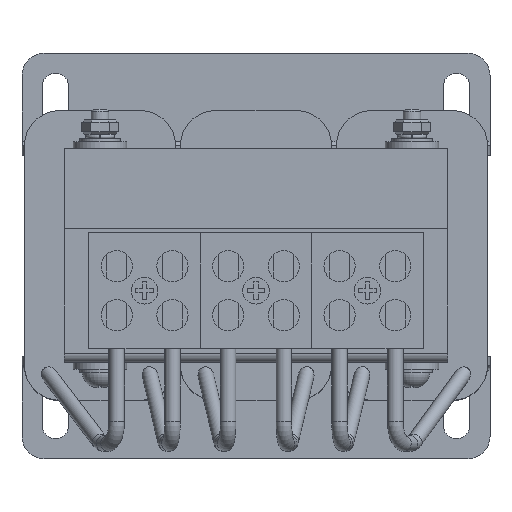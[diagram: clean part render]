
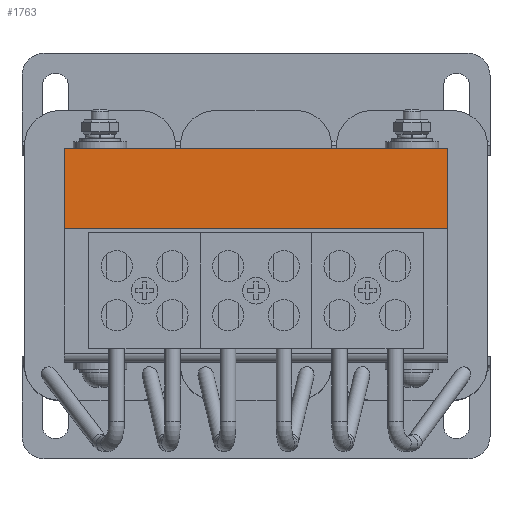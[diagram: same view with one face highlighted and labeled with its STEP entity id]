
A CAD part, top view. The second image highlights one B-rep face of the part: STEP entity #1763.
In plain terms, the highlighted planar face has unit normal (0, 0, 1).
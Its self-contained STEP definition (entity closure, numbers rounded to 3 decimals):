
#1763=ADVANCED_FACE('',(#2377),#2379,.T.);
#2377=FACE_BOUND('',#2378,.T.);
#2378=EDGE_LOOP('',(#3939,#3940,#3941,#3942));
#2379=PLANE('',#2380);
#2380=AXIS2_PLACEMENT_3D('',#2381,#2382,#2383);
#2381=CARTESIAN_POINT('',(0.,0.,15.));
#2382=DIRECTION('',(0.,0.,1.));
#2383=DIRECTION('',(-1.,0.,0.));
#3939=ORIENTED_EDGE('',*,*,#4744,.F.);
#3940=ORIENTED_EDGE('',*,*,#4745,.T.);
#3941=ORIENTED_EDGE('',*,*,#4725,.T.);
#3942=ORIENTED_EDGE('',*,*,#4743,.T.);
#4725=EDGE_CURVE('',#5287,#5285,#5288,.T.);
#4743=EDGE_CURVE('',#5285,#5318,#5320,.T.);
#4744=EDGE_CURVE('',#5321,#5318,#5322,.T.);
#4745=EDGE_CURVE('',#5321,#5287,#5323,.T.);
#5285=VERTEX_POINT('',#6393);
#5287=VERTEX_POINT('',#6397);
#5288=LINE('',#6398,#6399);
#5318=VERTEX_POINT('',#6468);
#5320=LINE('',#6472,#6473);
#5321=VERTEX_POINT('',#6475);
#5322=LINE('',#6476,#6477);
#5323=LINE('',#6479,#6480);
#6393=CARTESIAN_POINT('',(-43.,24.,15.));
#6397=CARTESIAN_POINT('',(43.,24.,15.));
#6398=CARTESIAN_POINT('',(43.,24.,15.));
#6399=VECTOR('',#6400,1.);
#6400=DIRECTION('',(-1.,0.,0.));
#6468=CARTESIAN_POINT('',(-43.,-22.,15.));
#6472=CARTESIAN_POINT('',(-43.,24.,15.));
#6473=VECTOR('',#6474,1.);
#6474=DIRECTION('',(0.,-1.,0.));
#6475=CARTESIAN_POINT('',(43.,-22.,15.));
#6476=CARTESIAN_POINT('',(43.,-22.,15.));
#6477=VECTOR('',#6478,1.);
#6478=DIRECTION('',(-1.,0.,0.));
#6479=CARTESIAN_POINT('',(43.,-22.,15.));
#6480=VECTOR('',#6481,1.);
#6481=DIRECTION('',(0.,1.,0.));
